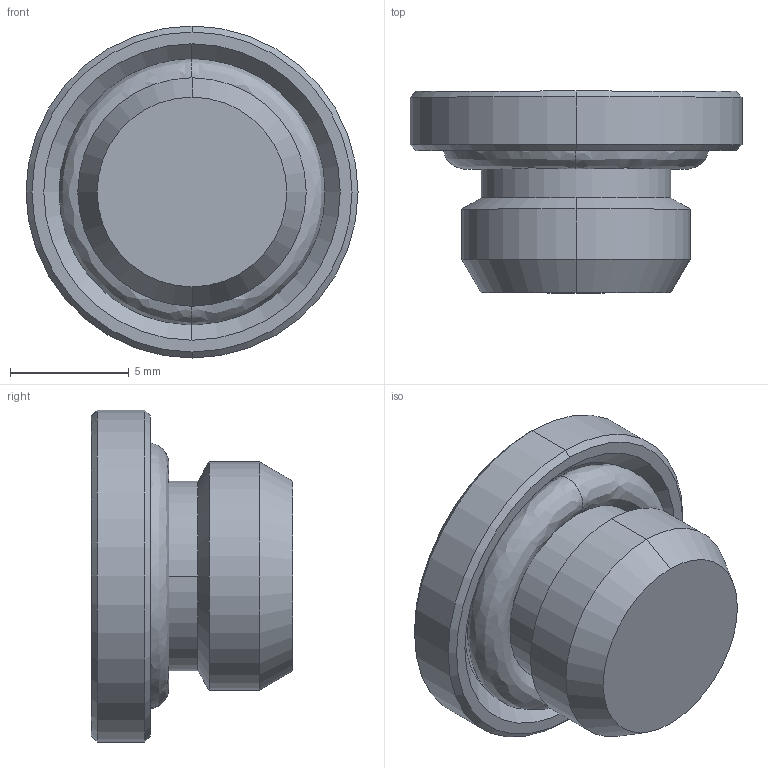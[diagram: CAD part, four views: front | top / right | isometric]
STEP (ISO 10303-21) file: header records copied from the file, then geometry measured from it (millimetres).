
FILE_DESCRIPTION (( 'STEP AP203' ), '1' );
FILE_NAME ('cad_step_258504.STEP', '2018-07-17T05:36:18', ( '' ), ( '' ), 'SwSTEP 2.0', 'SolidWorks 2017', '' );
FILE_SCHEMA (( 'CONFIG_CONTROL_DESIGN' ));
Length unit declared in the file: millimetre
Products named in the file (1): cad_step_258504
Bounding box: 14 x 8.5 x 14 mm (x, y, z)
Volume: 623.5 mm3; surface area: 778.1 mm2
Topology: 1 solids, 1 shells, 50 faces, 124 edges, 77 vertices
Faces by surface type: plane 22, cone 14, cylinder 10, bspline 4
Entity records: 1833 total; most frequent: CARTESIAN_POINT 590, DIRECTION 248, ORIENTED_EDGE 244, EDGE_CURVE 122, AXIS2_PLACEMENT_3D 97, VERTEX_POINT 77, VECTOR 54, LINE 54
